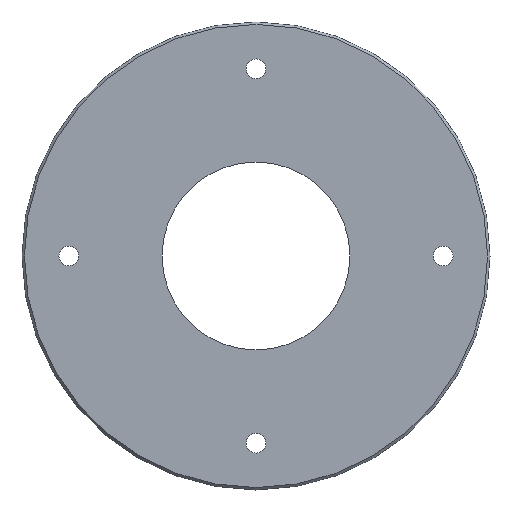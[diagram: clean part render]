
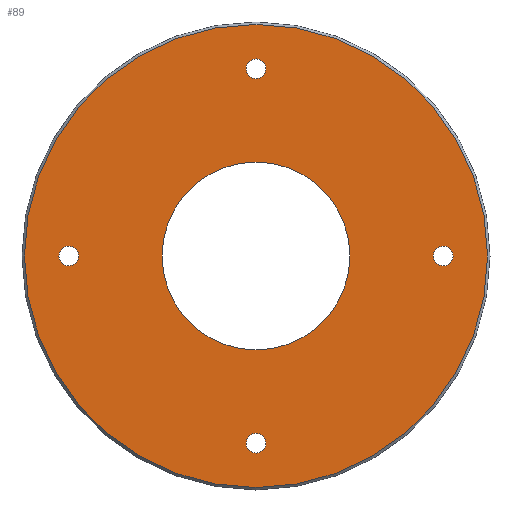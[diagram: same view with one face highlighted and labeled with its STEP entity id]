
A CAD part, left-side view. The second image highlights one B-rep face of the part: STEP entity #89.
In plain terms, the highlighted planar face has unit normal (-1, 0, 0).
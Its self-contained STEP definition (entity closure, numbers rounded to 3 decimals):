
#7 = EDGE_CURVE ( 'NONE', #40, #561, #469, .T. ) ;
#15 = EDGE_CURVE ( 'NONE', #509, #448, #570, .T. ) ;
#40 = VERTEX_POINT ( 'NONE', #137 ) ;
#52 = DIRECTION ( 'NONE',  ( -1., 0., 0. ) ) ;
#65 = CARTESIAN_POINT ( 'NONE',  ( 0., 0., 38.25 ) ) ;
#66 = AXIS2_PLACEMENT_3D ( 'NONE', #143, #52, #345 ) ;
#69 = CIRCLE ( 'NONE', #575, 4. ) ;
#72 = ORIENTED_EDGE ( 'NONE', *, *, #490, .F. ) ;
#73 = ORIENTED_EDGE ( 'NONE', *, *, #185, .F. ) ;
#83 = CIRCLE ( 'NONE', #265, 38.25 ) ;
#84 = FACE_OUTER_BOUND ( 'NONE', #209, .T. ) ;
#85 = DIRECTION ( 'NONE',  ( -1., 0., 0. ) ) ;
#87 = CARTESIAN_POINT ( 'NONE',  ( 0., 0., 0. ) ) ;
#89 = ADVANCED_FACE ( 'NONE', ( #84, #565, #315, #344, #176, #436 ), #532, .F. ) ;
#92 = EDGE_CURVE ( 'NONE', #306, #362, #293, .T. ) ;
#93 = AXIS2_PLACEMENT_3D ( 'NONE', #296, #150, #96 ) ;
#96 = DIRECTION ( 'NONE',  ( 0., 0., -1. ) ) ;
#97 = CIRCLE ( 'NONE', #164, 4. ) ;
#99 = DIRECTION ( 'NONE',  ( -1., 0., 0. ) ) ;
#107 = AXIS2_PLACEMENT_3D ( 'NONE', #196, #534, #385 ) ;
#116 = DIRECTION ( 'NONE',  ( 0., 0., -1. ) ) ;
#128 = CARTESIAN_POINT ( 'NONE',  ( 0., 0., 72.2 ) ) ;
#129 = DIRECTION ( 'NONE',  ( 0., 0., 1. ) ) ;
#135 = VERTEX_POINT ( 'NONE', #524 ) ;
#137 = CARTESIAN_POINT ( 'NONE',  ( 0., 0., -72.2 ) ) ;
#140 = ORIENTED_EDGE ( 'NONE', *, *, #218, .F. ) ;
#143 = CARTESIAN_POINT ( 'NONE',  ( 0., -76.2, 0. ) ) ;
#144 = CARTESIAN_POINT ( 'NONE',  ( 0., 0., -80.2 ) ) ;
#150 = DIRECTION ( 'NONE',  ( 1., 0., 0. ) ) ;
#162 = DIRECTION ( 'NONE',  ( -1., 0., 0. ) ) ;
#163 = EDGE_CURVE ( 'NONE', #135, #225, #586, .T. ) ;
#164 = AXIS2_PLACEMENT_3D ( 'NONE', #460, #172, #508 ) ;
#166 = CARTESIAN_POINT ( 'NONE',  ( 0., 0., 0. ) ) ;
#168 = ORIENTED_EDGE ( 'NONE', *, *, #455, .F. ) ;
#172 = DIRECTION ( 'NONE',  ( -1., 0., 0. ) ) ;
#174 = CIRCLE ( 'NONE', #365, 38.25 ) ;
#176 = FACE_BOUND ( 'NONE', #502, .T. ) ;
#185 = EDGE_CURVE ( 'NONE', #225, #135, #216, .T. ) ;
#192 = DIRECTION ( 'NONE',  ( -1., 0., 0. ) ) ;
#193 = DIRECTION ( 'NONE',  ( -1., 0., 0. ) ) ;
#196 = CARTESIAN_POINT ( 'NONE',  ( 0., 76.2, 0. ) ) ;
#197 = ORIENTED_EDGE ( 'NONE', *, *, #163, .F. ) ;
#206 = AXIS2_PLACEMENT_3D ( 'NONE', #547, #192, #580 ) ;
#207 = VERTEX_POINT ( 'NONE', #411 ) ;
#208 = CARTESIAN_POINT ( 'NONE',  ( 0., 0., -76.2 ) ) ;
#209 = EDGE_LOOP ( 'NONE', ( #197, #73 ) ) ;
#214 = ORIENTED_EDGE ( 'NONE', *, *, #334, .F. ) ;
#215 = DIRECTION ( 'NONE',  ( 0., 0., -1. ) ) ;
#216 = CIRCLE ( 'NONE', #413, 94.25 ) ;
#218 = EDGE_CURVE ( 'NONE', #448, #509, #69, .T. ) ;
#225 = VERTEX_POINT ( 'NONE', #550 ) ;
#243 = CARTESIAN_POINT ( 'NONE',  ( 0., 0., 76.2 ) ) ;
#245 = CIRCLE ( 'NONE', #270, 4. ) ;
#250 = CARTESIAN_POINT ( 'NONE',  ( 0., -76.2, 4. ) ) ;
#255 = CARTESIAN_POINT ( 'NONE',  ( 0., 76.2, 4. ) ) ;
#260 = VERTEX_POINT ( 'NONE', #255 ) ;
#265 = AXIS2_PLACEMENT_3D ( 'NONE', #371, #85, #422 ) ;
#266 = CIRCLE ( 'NONE', #206, 4. ) ;
#267 = ORIENTED_EDGE ( 'NONE', *, *, #15, .F. ) ;
#270 = AXIS2_PLACEMENT_3D ( 'NONE', #409, #581, #366 ) ;
#284 = EDGE_CURVE ( 'NONE', #207, #260, #383, .T. ) ;
#289 = DIRECTION ( 'NONE',  ( 0., 0., 1. ) ) ;
#293 = CIRCLE ( 'NONE', #66, 4. ) ;
#296 = CARTESIAN_POINT ( 'NONE',  ( 0., 94.25, 0. ) ) ;
#299 = CARTESIAN_POINT ( 'NONE',  ( 0., 0., 0. ) ) ;
#301 = CARTESIAN_POINT ( 'NONE',  ( 0., -76.2, -4. ) ) ;
#306 = VERTEX_POINT ( 'NONE', #250 ) ;
#315 = FACE_BOUND ( 'NONE', #486, .T. ) ;
#318 = EDGE_CURVE ( 'NONE', #362, #306, #266, .T. ) ;
#319 = DIRECTION ( 'NONE',  ( 0., 0., 1. ) ) ;
#323 = AXIS2_PLACEMENT_3D ( 'NONE', #299, #585, #215 ) ;
#332 = CARTESIAN_POINT ( 'NONE',  ( 0., 0., -38.25 ) ) ;
#334 = EDGE_CURVE ( 'NONE', #260, #207, #245, .T. ) ;
#344 = FACE_BOUND ( 'NONE', #421, .T. ) ;
#345 = DIRECTION ( 'NONE',  ( 0., 0., 1. ) ) ;
#355 = AXIS2_PLACEMENT_3D ( 'NONE', #208, #193, #289 ) ;
#362 = VERTEX_POINT ( 'NONE', #301 ) ;
#365 = AXIS2_PLACEMENT_3D ( 'NONE', #87, #426, #129 ) ;
#366 = DIRECTION ( 'NONE',  ( 0., 0., 1. ) ) ;
#371 = CARTESIAN_POINT ( 'NONE',  ( 0., 0., 0. ) ) ;
#372 = CARTESIAN_POINT ( 'NONE',  ( 0., 0., 80.2 ) ) ;
#383 = CIRCLE ( 'NONE', #107, 4. ) ;
#385 = DIRECTION ( 'NONE',  ( 0., 0., 1. ) ) ;
#401 = EDGE_CURVE ( 'NONE', #561, #40, #97, .T. ) ;
#409 = CARTESIAN_POINT ( 'NONE',  ( 0., 76.2, 0. ) ) ;
#411 = CARTESIAN_POINT ( 'NONE',  ( 0., 76.2, -4. ) ) ;
#412 = AXIS2_PLACEMENT_3D ( 'NONE', #243, #99, #476 ) ;
#413 = AXIS2_PLACEMENT_3D ( 'NONE', #166, #457, #116 ) ;
#421 = EDGE_LOOP ( 'NONE', ( #605, #583 ) ) ;
#422 = DIRECTION ( 'NONE',  ( 0., 0., 1. ) ) ;
#424 = EDGE_LOOP ( 'NONE', ( #214, #479 ) ) ;
#426 = DIRECTION ( 'NONE',  ( -1., 0., 0. ) ) ;
#436 = FACE_BOUND ( 'NONE', #424, .T. ) ;
#448 = VERTEX_POINT ( 'NONE', #128 ) ;
#455 = EDGE_CURVE ( 'NONE', #599, #543, #83, .T. ) ;
#457 = DIRECTION ( 'NONE',  ( 1., 0., 0. ) ) ;
#460 = CARTESIAN_POINT ( 'NONE',  ( 0., 0., -76.2 ) ) ;
#469 = CIRCLE ( 'NONE', #355, 4. ) ;
#476 = DIRECTION ( 'NONE',  ( 0., 0., 1. ) ) ;
#479 = ORIENTED_EDGE ( 'NONE', *, *, #284, .F. ) ;
#485 = EDGE_LOOP ( 'NONE', ( #168, #72 ) ) ;
#486 = EDGE_LOOP ( 'NONE', ( #511, #505 ) ) ;
#490 = EDGE_CURVE ( 'NONE', #543, #599, #174, .T. ) ;
#501 = CARTESIAN_POINT ( 'NONE',  ( 0., 0., 76.2 ) ) ;
#502 = EDGE_LOOP ( 'NONE', ( #267, #140 ) ) ;
#505 = ORIENTED_EDGE ( 'NONE', *, *, #401, .F. ) ;
#508 = DIRECTION ( 'NONE',  ( 0., 0., 1. ) ) ;
#509 = VERTEX_POINT ( 'NONE', #372 ) ;
#511 = ORIENTED_EDGE ( 'NONE', *, *, #7, .F. ) ;
#524 = CARTESIAN_POINT ( 'NONE',  ( 0., 0., -94.25 ) ) ;
#532 = PLANE ( 'NONE',  #93 ) ;
#534 = DIRECTION ( 'NONE',  ( -1., 0., 0. ) ) ;
#543 = VERTEX_POINT ( 'NONE', #332 ) ;
#547 = CARTESIAN_POINT ( 'NONE',  ( 0., -76.2, 0. ) ) ;
#550 = CARTESIAN_POINT ( 'NONE',  ( 0., 0., 94.25 ) ) ;
#561 = VERTEX_POINT ( 'NONE', #144 ) ;
#565 = FACE_BOUND ( 'NONE', #485, .T. ) ;
#570 = CIRCLE ( 'NONE', #412, 4. ) ;
#575 = AXIS2_PLACEMENT_3D ( 'NONE', #501, #162, #319 ) ;
#580 = DIRECTION ( 'NONE',  ( 0., 0., 1. ) ) ;
#581 = DIRECTION ( 'NONE',  ( -1., 0., 0. ) ) ;
#583 = ORIENTED_EDGE ( 'NONE', *, *, #318, .F. ) ;
#585 = DIRECTION ( 'NONE',  ( 1., 0., 0. ) ) ;
#586 = CIRCLE ( 'NONE', #323, 94.25 ) ;
#599 = VERTEX_POINT ( 'NONE', #65 ) ;
#605 = ORIENTED_EDGE ( 'NONE', *, *, #92, .F. ) ;
